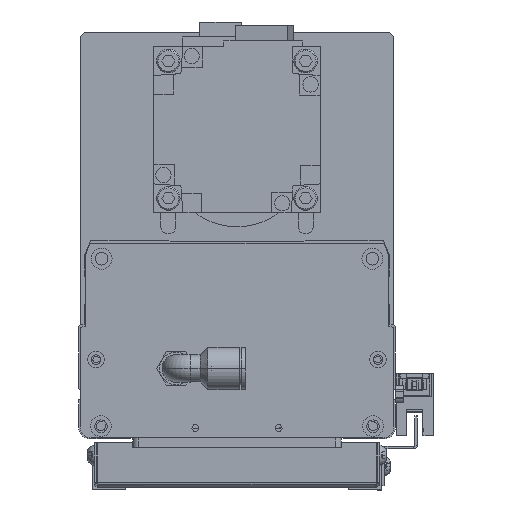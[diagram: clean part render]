
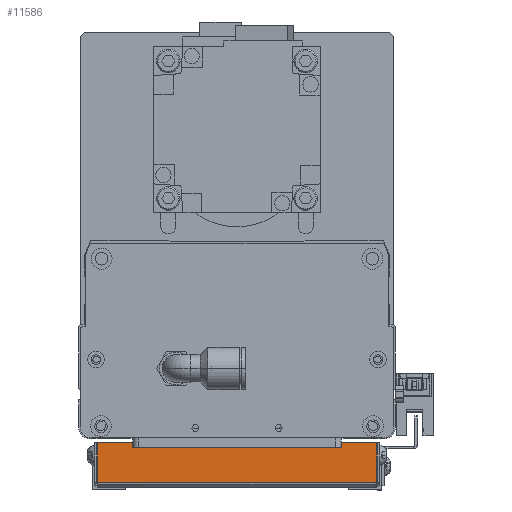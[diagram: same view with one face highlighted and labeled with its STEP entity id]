
A CAD part, front view. The second image highlights one B-rep face of the part: STEP entity #11586.
In plain terms, the highlighted planar face has unit normal (0, -1, 0) as drawn and (0, 0, 1) by its records, which use the part's own axes.
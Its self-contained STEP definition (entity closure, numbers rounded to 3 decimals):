
#1028 = VECTOR ( 'NONE', #16749, 1000. ) ;
#1341 = PLANE ( 'NONE',  #25596 ) ;
#1691 = CARTESIAN_POINT ( 'NONE',  ( 262.181, 144.497, 160.727 ) ) ;
#1794 = EDGE_CURVE ( 'NONE', #4151, #7822, #17642, .T. ) ;
#2396 = DIRECTION ( 'NONE',  ( -1., 0., 0. ) ) ;
#4132 = ORIENTED_EDGE ( 'NONE', *, *, #6610, .F. ) ;
#4151 = VERTEX_POINT ( 'NONE', #31497 ) ;
#5707 = LINE ( 'NONE', #27296, #19516 ) ;
#5998 = EDGE_CURVE ( 'NONE', #7822, #25744, #30296, .T. ) ;
#6610 = EDGE_CURVE ( 'NONE', #25744, #21120, #5707, .T. ) ;
#7822 = VERTEX_POINT ( 'NONE', #33216 ) ;
#8893 = CARTESIAN_POINT ( 'NONE',  ( 184.072, 142.76, 160.727 ) ) ;
#11586 = ADVANCED_FACE ( 'NONE', ( #27834 ), #1341, .F. ) ;
#12535 = EDGE_LOOP ( 'NONE', ( #30435, #32896, #4132, #23894 ) ) ;
#16671 = DIRECTION ( 'NONE',  ( 1., 0., 0. ) ) ;
#16749 = DIRECTION ( 'NONE',  ( 0., -1., 0. ) ) ;
#17642 = LINE ( 'NONE', #30745, #33637 ) ;
#18812 = LINE ( 'NONE', #31316, #20538 ) ;
#19030 = DIRECTION ( 'NONE',  ( 0., 1., 0. ) ) ;
#19516 = VECTOR ( 'NONE', #2396, 1000. ) ;
#20538 = VECTOR ( 'NONE', #25888, 1000. ) ;
#21120 = VERTEX_POINT ( 'NONE', #31178 ) ;
#21974 = CARTESIAN_POINT ( 'NONE',  ( 184.072, 128.497, 160.727 ) ) ;
#22791 = DIRECTION ( 'NONE',  ( 0., 0., -1. ) ) ;
#23044 = EDGE_CURVE ( 'NONE', #4151, #21120, #18812, .T. ) ;
#23894 = ORIENTED_EDGE ( 'NONE', *, *, #5998, .F. ) ;
#25596 = AXIS2_PLACEMENT_3D ( 'NONE', #1691, #22791, #19030 ) ;
#25744 = VERTEX_POINT ( 'NONE', #21974 ) ;
#25888 = DIRECTION ( 'NONE',  ( 0., -1., 0. ) ) ;
#27296 = CARTESIAN_POINT ( 'NONE',  ( 184.172, 128.497, 160.727 ) ) ;
#27834 = FACE_OUTER_BOUND ( 'NONE', #12535, .T. ) ;
#30296 = LINE ( 'NONE', #8893, #1028 ) ;
#30435 = ORIENTED_EDGE ( 'NONE', *, *, #1794, .F. ) ;
#30745 = CARTESIAN_POINT ( 'NONE',  ( 262.181, 142.76, 160.727 ) ) ;
#31178 = CARTESIAN_POINT ( 'NONE',  ( 83.272, 128.497, 160.727 ) ) ;
#31316 = CARTESIAN_POINT ( 'NONE',  ( 83.272, 142.76, 160.727 ) ) ;
#31497 = CARTESIAN_POINT ( 'NONE',  ( 83.272, 142.76, 160.727 ) ) ;
#32896 = ORIENTED_EDGE ( 'NONE', *, *, #23044, .T. ) ;
#33216 = CARTESIAN_POINT ( 'NONE',  ( 184.072, 142.76, 160.727 ) ) ;
#33637 = VECTOR ( 'NONE', #16671, 1000. ) ;
